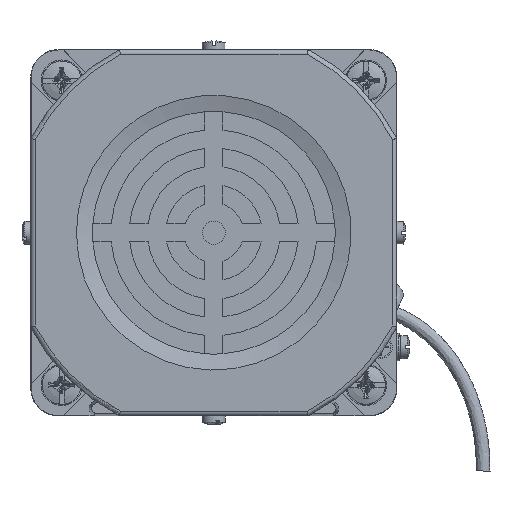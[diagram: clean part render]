
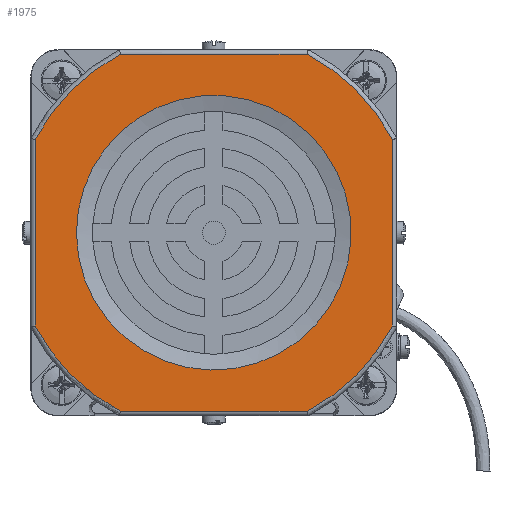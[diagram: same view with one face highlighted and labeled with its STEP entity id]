
A CAD part, left-side view. The second image highlights one B-rep face of the part: STEP entity #1975.
In plain terms, the highlighted planar face has unit normal (-1, 0, 0).
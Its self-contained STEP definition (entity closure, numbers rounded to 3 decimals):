
#1221=FACE_BOUND('',#4407,.T.);
#1222=FACE_BOUND('',#4408,.T.);
#1975=ADVANCED_FACE('',(#1221,#1222),#2678,.F.);
#2678=PLANE('',#18750);
#4407=EDGE_LOOP('',(#8945));
#4408=EDGE_LOOP('',(#8946,#8947,#8948,#8949,#8950,#8951,#8952,#8953));
#8945=ORIENTED_EDGE('',*,*,#14648,.T.);
#8946=ORIENTED_EDGE('',*,*,#14649,.T.);
#8947=ORIENTED_EDGE('',*,*,#14650,.T.);
#8948=ORIENTED_EDGE('',*,*,#14651,.T.);
#8949=ORIENTED_EDGE('',*,*,#14652,.T.);
#8950=ORIENTED_EDGE('',*,*,#14653,.T.);
#8951=ORIENTED_EDGE('',*,*,#14654,.T.);
#8952=ORIENTED_EDGE('',*,*,#14655,.T.);
#8953=ORIENTED_EDGE('',*,*,#14656,.T.);
#12486=VERTEX_POINT('',#28344);
#12487=VERTEX_POINT('',#28346);
#12488=VERTEX_POINT('',#28347);
#12489=VERTEX_POINT('',#28349);
#12490=VERTEX_POINT('',#28351);
#12491=VERTEX_POINT('',#28353);
#12492=VERTEX_POINT('',#28355);
#12493=VERTEX_POINT('',#28357);
#12494=VERTEX_POINT('',#28359);
#14648=EDGE_CURVE('',#12486,#12486,#17719,.T.);
#14649=EDGE_CURVE('',#12487,#12488,#16276,.T.);
#14650=EDGE_CURVE('',#12488,#12489,#17720,.T.);
#14651=EDGE_CURVE('',#12489,#12490,#16277,.T.);
#14652=EDGE_CURVE('',#12490,#12491,#17721,.T.);
#14653=EDGE_CURVE('',#12491,#12492,#16278,.T.);
#14654=EDGE_CURVE('',#12492,#12493,#17722,.T.);
#14655=EDGE_CURVE('',#12493,#12494,#16279,.T.);
#14656=EDGE_CURVE('',#12494,#12487,#17723,.T.);
#16276=LINE('',#28345,#16912);
#16277=LINE('',#28350,#16913);
#16278=LINE('',#28354,#16914);
#16279=LINE('',#28358,#16915);
#16912=VECTOR('',#21182,1.);
#16913=VECTOR('',#21185,1.);
#16914=VECTOR('',#21188,1.);
#16915=VECTOR('',#21191,1.);
#17719=CIRCLE('',#18745,30.);
#17720=CIRCLE('',#18746,44.);
#17721=CIRCLE('',#18747,44.);
#17722=CIRCLE('',#18748,44.);
#17723=CIRCLE('',#18749,44.);
#18745=AXIS2_PLACEMENT_3D('',#28343,#21180,#21181);
#18746=AXIS2_PLACEMENT_3D('',#28348,#21183,#21184);
#18747=AXIS2_PLACEMENT_3D('',#28352,#21186,#21187);
#18748=AXIS2_PLACEMENT_3D('',#28356,#21189,#21190);
#18749=AXIS2_PLACEMENT_3D('',#28360,#21192,#21193);
#18750=AXIS2_PLACEMENT_3D('',#28361,#21194,#21195);
#21180=DIRECTION('',(1.,0.,0.));
#21181=DIRECTION('',(0.,1.,0.));
#21182=DIRECTION('',(0.,1.,0.));
#21183=DIRECTION('',(-1.,0.,0.));
#21184=DIRECTION('',(0.,0.,-1.));
#21185=DIRECTION('',(0.,0.,-1.));
#21186=DIRECTION('',(-1.,0.,0.));
#21187=DIRECTION('',(0.,0.,-1.));
#21188=DIRECTION('',(0.,-1.,0.));
#21189=DIRECTION('',(-1.,0.,0.));
#21190=DIRECTION('',(0.,0.,-1.));
#21191=DIRECTION('',(0.,0.,1.));
#21192=DIRECTION('',(-1.,0.,0.));
#21193=DIRECTION('',(0.,0.,-1.));
#21194=DIRECTION('',(1.,0.,0.));
#21195=DIRECTION('',(0.,0.,-1.));
#28343=CARTESIAN_POINT('',(-102.,40.,40.));
#28344=CARTESIAN_POINT('',(-102.,70.,40.));
#28345=CARTESIAN_POINT('',(-102.,60.616,79.));
#28346=CARTESIAN_POINT('',(-102.,19.628,79.));
#28347=CARTESIAN_POINT('',(-102.,60.372,79.));
#28348=CARTESIAN_POINT('',(-102.,40.,40.));
#28349=CARTESIAN_POINT('',(-102.,79.,60.372));
#28350=CARTESIAN_POINT('',(-102.,79.,19.384));
#28351=CARTESIAN_POINT('',(-102.,79.,19.628));
#28352=CARTESIAN_POINT('',(-102.,40.,40.));
#28353=CARTESIAN_POINT('',(-102.,60.372,1.));
#28354=CARTESIAN_POINT('',(-102.,19.384,1.));
#28355=CARTESIAN_POINT('',(-102.,19.628,1.));
#28356=CARTESIAN_POINT('',(-102.,40.,40.));
#28357=CARTESIAN_POINT('',(-102.,1.,19.628));
#28358=CARTESIAN_POINT('',(-102.,1.,60.616));
#28359=CARTESIAN_POINT('',(-102.,1.,60.372));
#28360=CARTESIAN_POINT('',(-102.,40.,40.));
#28361=CARTESIAN_POINT('',(-102.,40.,40.));
